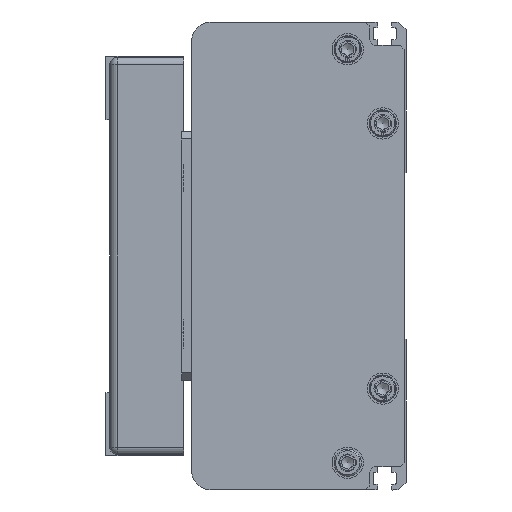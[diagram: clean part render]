
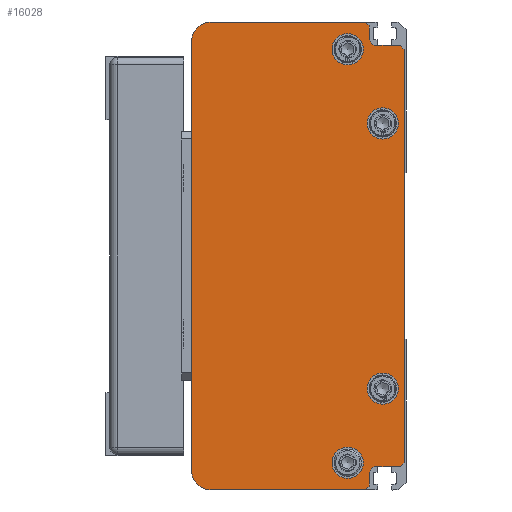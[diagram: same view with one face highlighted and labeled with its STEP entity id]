
A CAD part, left-side view. The second image highlights one B-rep face of the part: STEP entity #16028.
In plain terms, the highlighted planar face has unit normal (-1, 0, 0) as drawn and (0, 0, -1) by its records, which use the part's own axes.
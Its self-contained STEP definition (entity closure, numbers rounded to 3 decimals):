
#846=FACE_BOUND('',#2673,.T.);
#847=FACE_BOUND('',#2674,.T.);
#848=FACE_BOUND('',#2675,.T.);
#849=FACE_BOUND('',#2676,.T.);
#1180=CIRCLE('',#17184,5.);
#1181=CIRCLE('',#17186,5.);
#1182=CIRCLE('',#17187,2.);
#1183=CIRCLE('',#17188,2.);
#1184=CIRCLE('',#17189,4.);
#1185=CIRCLE('',#17190,4.);
#1186=CIRCLE('',#17191,4.);
#1187=CIRCLE('',#17192,4.);
#1624=FACE_OUTER_BOUND('',#2672,.T.);
#2672=EDGE_LOOP('',(#11058,#11059,#11060,#11061,#11062,#11063,#11064,#11065,
#11066,#11067,#11068,#11069,#11070,#11071,#11072,#11073));
#2673=EDGE_LOOP('',(#11074));
#2674=EDGE_LOOP('',(#11075));
#2675=EDGE_LOOP('',(#11076));
#2676=EDGE_LOOP('',(#11077));
#3921=LINE('',#22968,#5455);
#3922=LINE('',#22970,#5456);
#3923=LINE('',#22973,#5457);
#3924=LINE('',#22975,#5458);
#3925=LINE('',#22977,#5459);
#3926=LINE('',#22979,#5460);
#3927=LINE('',#22983,#5461);
#3928=LINE('',#22985,#5462);
#3929=LINE('',#22987,#5463);
#3930=LINE('',#22989,#5464);
#3931=LINE('',#22991,#5465);
#3932=LINE('',#22994,#5466);
#5455=VECTOR('',#18760,1.414);
#5456=VECTOR('',#18761,39.5);
#5457=VECTOR('',#18764,110.);
#5458=VECTOR('',#18765,39.5);
#5459=VECTOR('',#18766,1.414);
#5460=VECTOR('',#18767,3.);
#5461=VECTOR('',#18770,6.);
#5462=VECTOR('',#18771,1.414);
#5463=VECTOR('',#18772,106.);
#5464=VECTOR('',#18773,1.414);
#5465=VECTOR('',#18774,6.);
#5466=VECTOR('',#18777,3.);
#7035=VERTEX_POINT('',#22960);
#7036=VERTEX_POINT('',#22962);
#7037=VERTEX_POINT('',#22966);
#7038=VERTEX_POINT('',#22967);
#7039=VERTEX_POINT('',#22969);
#7040=VERTEX_POINT('',#22971);
#7041=VERTEX_POINT('',#22974);
#7042=VERTEX_POINT('',#22976);
#7043=VERTEX_POINT('',#22978);
#7044=VERTEX_POINT('',#22980);
#7045=VERTEX_POINT('',#22982);
#7046=VERTEX_POINT('',#22984);
#7047=VERTEX_POINT('',#22986);
#7048=VERTEX_POINT('',#22988);
#7049=VERTEX_POINT('',#22990);
#7050=VERTEX_POINT('',#22992);
#7051=VERTEX_POINT('',#22995);
#7052=VERTEX_POINT('',#22997);
#7053=VERTEX_POINT('',#22999);
#7054=VERTEX_POINT('',#23001);
#8642=EDGE_CURVE('',#7035,#7036,#1180,.T.);
#8644=EDGE_CURVE('',#7037,#7038,#3921,.T.);
#8645=EDGE_CURVE('',#7037,#7039,#3922,.T.);
#8646=EDGE_CURVE('',#7040,#7039,#1181,.T.);
#8647=EDGE_CURVE('',#7040,#7036,#3923,.T.);
#8648=EDGE_CURVE('',#7035,#7041,#3924,.T.);
#8649=EDGE_CURVE('',#7042,#7041,#3925,.T.);
#8650=EDGE_CURVE('',#7042,#7043,#3926,.T.);
#8651=EDGE_CURVE('',#7043,#7044,#1182,.T.);
#8652=EDGE_CURVE('',#7044,#7045,#3927,.T.);
#8653=EDGE_CURVE('',#7046,#7045,#3928,.T.);
#8654=EDGE_CURVE('',#7046,#7047,#3929,.T.);
#8655=EDGE_CURVE('',#7048,#7047,#3930,.T.);
#8656=EDGE_CURVE('',#7048,#7049,#3931,.T.);
#8657=EDGE_CURVE('',#7049,#7050,#1183,.T.);
#8658=EDGE_CURVE('',#7050,#7038,#3932,.T.);
#8659=EDGE_CURVE('',#7051,#7051,#1184,.T.);
#8660=EDGE_CURVE('',#7052,#7052,#1185,.T.);
#8661=EDGE_CURVE('',#7053,#7053,#1186,.T.);
#8662=EDGE_CURVE('',#7054,#7054,#1187,.T.);
#11058=ORIENTED_EDGE('',*,*,#8644,.F.);
#11059=ORIENTED_EDGE('',*,*,#8645,.T.);
#11060=ORIENTED_EDGE('',*,*,#8646,.F.);
#11061=ORIENTED_EDGE('',*,*,#8647,.T.);
#11062=ORIENTED_EDGE('',*,*,#8642,.F.);
#11063=ORIENTED_EDGE('',*,*,#8648,.T.);
#11064=ORIENTED_EDGE('',*,*,#8649,.F.);
#11065=ORIENTED_EDGE('',*,*,#8650,.T.);
#11066=ORIENTED_EDGE('',*,*,#8651,.T.);
#11067=ORIENTED_EDGE('',*,*,#8652,.T.);
#11068=ORIENTED_EDGE('',*,*,#8653,.F.);
#11069=ORIENTED_EDGE('',*,*,#8654,.T.);
#11070=ORIENTED_EDGE('',*,*,#8655,.F.);
#11071=ORIENTED_EDGE('',*,*,#8656,.T.);
#11072=ORIENTED_EDGE('',*,*,#8657,.T.);
#11073=ORIENTED_EDGE('',*,*,#8658,.T.);
#11074=ORIENTED_EDGE('',*,*,#8659,.T.);
#11075=ORIENTED_EDGE('',*,*,#8660,.T.);
#11076=ORIENTED_EDGE('',*,*,#8661,.T.);
#11077=ORIENTED_EDGE('',*,*,#8662,.T.);
#15392=PLANE('',#17185);
#16028=ADVANCED_FACE('',(#1624,#846,#847,#848,#849),#15392,.F.);
#17184=AXIS2_PLACEMENT_3D('',#22963,#18755,#18756);
#17185=AXIS2_PLACEMENT_3D('',#22965,#18758,#18759);
#17186=AXIS2_PLACEMENT_3D('',#22972,#18762,#18763);
#17187=AXIS2_PLACEMENT_3D('',#22981,#18768,#18769);
#17188=AXIS2_PLACEMENT_3D('',#22993,#18775,#18776);
#17189=AXIS2_PLACEMENT_3D('',#22996,#18778,#18779);
#17190=AXIS2_PLACEMENT_3D('',#22998,#18780,#18781);
#17191=AXIS2_PLACEMENT_3D('',#23000,#18782,#18783);
#17192=AXIS2_PLACEMENT_3D('',#23002,#18784,#18785);
#18755=DIRECTION('center_axis',(0.,0.,
1.));
#18756=DIRECTION('ref_axis',(0.707,0.707,0.));
#18758=DIRECTION('center_axis',(0.,0.,
1.));
#18759=DIRECTION('ref_axis',(-1.,-0.018,0.));
#18760=DIRECTION('',(0.707,-0.707,0.));
#18761=DIRECTION('',(0.,1.,0.));
#18762=DIRECTION('center_axis',(0.,0.,
1.));
#18763=DIRECTION('ref_axis',(-0.707,0.707,0.));
#18764=DIRECTION('',(1.,0.,0.));
#18765=DIRECTION('',(0.,-1.,0.));
#18766=DIRECTION('',(0.707,0.707,0.));
#18767=DIRECTION('',(-1.,0.,0.));
#18768=DIRECTION('center_axis',(0.,0.,
1.));
#18769=DIRECTION('ref_axis',(0.,-1.,0.));
#18770=DIRECTION('',(0.,-1.,0.));
#18771=DIRECTION('',(0.707,0.707,0.));
#18772=DIRECTION('',(-1.,0.,0.));
#18773=DIRECTION('',(0.707,-0.707,0.));
#18774=DIRECTION('',(0.,1.,0.));
#18775=DIRECTION('center_axis',(0.,0.,
1.));
#18776=DIRECTION('ref_axis',(1.,0.,0.));
#18777=DIRECTION('',(-1.,0.,0.));
#18778=DIRECTION('center_axis',(0.,0.,
1.));
#18779=DIRECTION('ref_axis',(0.,1.,0.));
#18780=DIRECTION('center_axis',(0.,0.,
1.));
#18781=DIRECTION('ref_axis',(0.,1.,0.));
#18782=DIRECTION('center_axis',(0.,0.,
1.));
#18783=DIRECTION('ref_axis',(0.,1.,0.));
#18784=DIRECTION('center_axis',(0.,0.,
1.));
#18785=DIRECTION('ref_axis',(0.,1.,0.));
#22960=CARTESIAN_POINT('',(124.75,50.75,-1392.5));
#22962=CARTESIAN_POINT('',(119.75,55.75,-1392.5));
#22963=CARTESIAN_POINT('Origin',(119.75,50.75,-1392.5));
#22965=CARTESIAN_POINT('Origin',(64.75,28.5,-1392.5));
#22966=CARTESIAN_POINT('',(4.75,11.25,-1392.5));
#22967=CARTESIAN_POINT('',(5.75,10.25,-1392.5));
#22968=CARTESIAN_POINT('',(4.75,11.25,-1392.5));
#22969=CARTESIAN_POINT('',(4.75,50.75,-1392.5));
#22970=CARTESIAN_POINT('',(4.75,11.25,-1392.5));
#22971=CARTESIAN_POINT('',(9.75,55.75,-1392.5));
#22972=CARTESIAN_POINT('Origin',(9.75,50.75,-1392.5));
#22973=CARTESIAN_POINT('',(9.75,55.75,-1392.5));
#22974=CARTESIAN_POINT('',(124.75,11.25,-1392.5));
#22975=CARTESIAN_POINT('',(124.75,50.75,-1392.5));
#22976=CARTESIAN_POINT('',(123.75,10.25,-1392.5));
#22977=CARTESIAN_POINT('',(123.75,10.25,-1392.5));
#22978=CARTESIAN_POINT('',(120.75,10.25,-1392.5));
#22979=CARTESIAN_POINT('',(123.75,10.25,-1392.5));
#22980=CARTESIAN_POINT('',(118.75,8.25,-1392.5));
#22981=CARTESIAN_POINT('Origin',(120.75,8.25,-1392.5));
#22982=CARTESIAN_POINT('',(118.75,2.25,-1392.5));
#22983=CARTESIAN_POINT('',(118.75,8.25,-1392.5));
#22984=CARTESIAN_POINT('',(117.75,1.25,-1392.5));
#22985=CARTESIAN_POINT('',(117.75,1.25,-1392.5));
#22986=CARTESIAN_POINT('',(11.75,1.25,-1392.5));
#22987=CARTESIAN_POINT('',(117.75,1.25,-1392.5));
#22988=CARTESIAN_POINT('',(10.75,2.25,-1392.5));
#22989=CARTESIAN_POINT('',(10.75,2.25,-1392.5));
#22990=CARTESIAN_POINT('',(10.75,8.25,-1392.5));
#22991=CARTESIAN_POINT('',(10.75,2.25,-1392.5));
#22992=CARTESIAN_POINT('',(8.75,10.25,-1392.5));
#22993=CARTESIAN_POINT('Origin',(8.75,8.25,-1392.5));
#22994=CARTESIAN_POINT('',(8.75,10.25,-1392.5));
#22995=CARTESIAN_POINT('',(30.75,10.75,-1392.5));
#22996=CARTESIAN_POINT('Origin',(30.75,6.75,-1392.5));
#22997=CARTESIAN_POINT('',(98.75,10.75,-1392.5));
#22998=CARTESIAN_POINT('Origin',(98.75,6.75,-1392.5));
#22999=CARTESIAN_POINT('',(11.75,19.75,-1392.5));
#23000=CARTESIAN_POINT('Origin',(11.75,15.75,-1392.5));
#23001=CARTESIAN_POINT('',(117.75,19.75,-1392.5));
#23002=CARTESIAN_POINT('Origin',(117.75,15.75,-1392.5));
